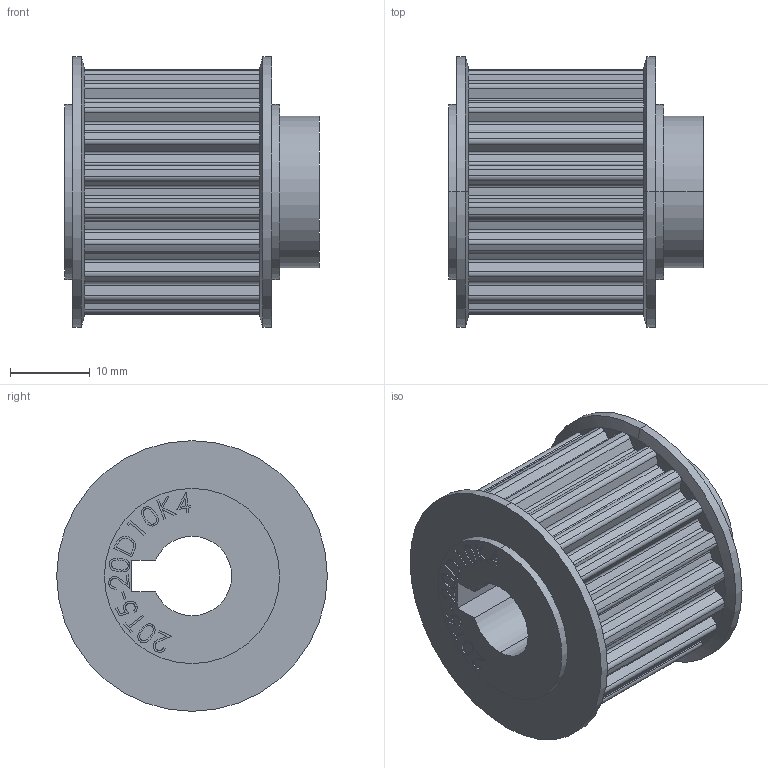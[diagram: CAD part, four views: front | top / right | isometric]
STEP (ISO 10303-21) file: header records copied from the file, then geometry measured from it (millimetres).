
FILE_DESCRIPTION (( 'STEP AP214' ), '1' );
FILE_NAME ('3.2061 Hammashihnapyörä 20T5_20D10K4.STEP', '2026-02-09T07:13:40', ( '' ), ( '' ), 'SwSTEP 2.0', 'SolidWorks 2025', '' );
FILE_SCHEMA (( 'AUTOMOTIVE_DESIGN' ));
Length unit declared in the file: millimetre
Products named in the file (1): 3.2061 Hammashihnapyörä 20T5_20D10K4
Bounding box: 32 x 34 x 34 mm (x, y, z)
Volume: 16661.4 mm3; surface area: 7075.3 mm2
Topology: 1 solids, 1 shells, 393 faces, 1029 edges, 657 vertices
Faces by surface type: plane 176, cylinder 156, bspline 57, cone 4
Entity records: 18700 total; most frequent: CARTESIAN_POINT 9258, ORIENTED_EDGE 2058, DIRECTION 1852, EDGE_CURVE 1029, VERTEX_POINT 657, AXIS2_PLACEMENT_3D 653, VECTOR 546, LINE 546
